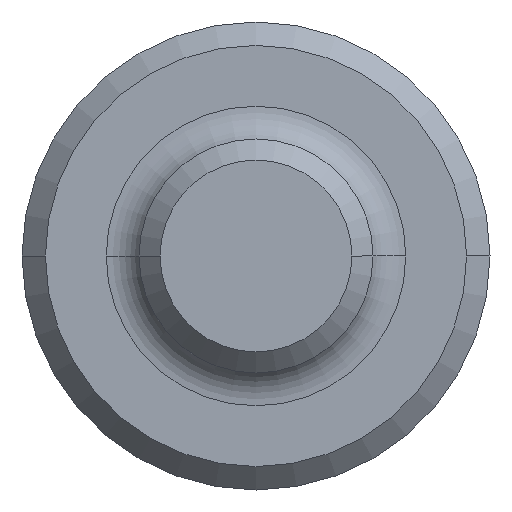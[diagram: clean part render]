
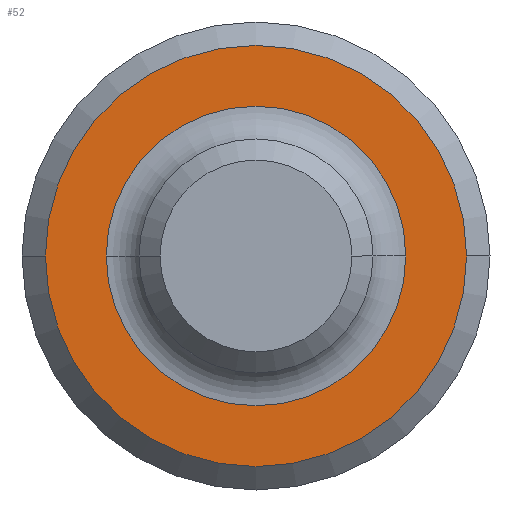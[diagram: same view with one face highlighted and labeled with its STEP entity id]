
A CAD part, left-side view. The second image highlights one B-rep face of the part: STEP entity #52.
In plain terms, the highlighted planar face has unit normal (-1, 0, 0).
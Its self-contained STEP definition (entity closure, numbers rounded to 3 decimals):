
#25 = EDGE_LOOP ( 'NONE', ( #557, #528 ) ) ;
#39 = DIRECTION ( 'NONE',  ( 1., 0., 0. ) ) ;
#52 = ADVANCED_FACE ( 'NONE', ( #332, #310 ), #301, .F. ) ;
#58 = AXIS2_PLACEMENT_3D ( 'NONE', #97, #561, #405 ) ;
#85 = AXIS2_PLACEMENT_3D ( 'NONE', #389, #206, #422 ) ;
#88 = CARTESIAN_POINT ( 'NONE',  ( 2.997, -11.43, 0. ) ) ;
#97 = CARTESIAN_POINT ( 'NONE',  ( 2.997, 0., 0. ) ) ;
#104 = CARTESIAN_POINT ( 'NONE',  ( 2.997, 0., 0. ) ) ;
#111 = ORIENTED_EDGE ( 'NONE', *, *, #329, .T. ) ;
#114 = DIRECTION ( 'NONE',  ( 0., 1., 0. ) ) ;
#145 = EDGE_LOOP ( 'NONE', ( #111, #383 ) ) ;
#188 = CARTESIAN_POINT ( 'NONE',  ( 2.997, 0., 0. ) ) ;
#198 = CARTESIAN_POINT ( 'NONE',  ( 2.997, -8.128, 0. ) ) ;
#206 = DIRECTION ( 'NONE',  ( 1., 0., 0. ) ) ;
#232 = CIRCLE ( 'NONE', #584, 11.43 ) ;
#278 = EDGE_CURVE ( 'NONE', #361, #533, #232, .T. ) ;
#279 = CARTESIAN_POINT ( 'NONE',  ( 2.997, 11.43, 0. ) ) ;
#292 = AXIS2_PLACEMENT_3D ( 'NONE', #393, #370, #114 ) ;
#301 = PLANE ( 'NONE',  #292 ) ;
#310 = FACE_BOUND ( 'NONE', #145, .T. ) ;
#318 = CARTESIAN_POINT ( 'NONE',  ( 2.997, 8.128, 0. ) ) ;
#329 = EDGE_CURVE ( 'NONE', #455, #546, #391, .T. ) ;
#332 = FACE_OUTER_BOUND ( 'NONE', #25, .T. ) ;
#333 = CIRCLE ( 'NONE', #58, 11.43 ) ;
#361 = VERTEX_POINT ( 'NONE', #279 ) ;
#364 = DIRECTION ( 'NONE',  ( 1., 0., 0. ) ) ;
#370 = DIRECTION ( 'NONE',  ( 1., 0., 0. ) ) ;
#377 = DIRECTION ( 'NONE',  ( 0., 1., 0. ) ) ;
#383 = ORIENTED_EDGE ( 'NONE', *, *, #448, .T. ) ;
#389 = CARTESIAN_POINT ( 'NONE',  ( 2.997, 0., 0. ) ) ;
#391 = CIRCLE ( 'NONE', #420, 8.128 ) ;
#393 = CARTESIAN_POINT ( 'NONE',  ( 2.997, 0., 0. ) ) ;
#405 = DIRECTION ( 'NONE',  ( 0., 1., 0. ) ) ;
#420 = AXIS2_PLACEMENT_3D ( 'NONE', #104, #39, #377 ) ;
#422 = DIRECTION ( 'NONE',  ( 0., 1., 0. ) ) ;
#431 = DIRECTION ( 'NONE',  ( 0., 1., 0. ) ) ;
#448 = EDGE_CURVE ( 'NONE', #546, #455, #577, .T. ) ;
#455 = VERTEX_POINT ( 'NONE', #318 ) ;
#528 = ORIENTED_EDGE ( 'NONE', *, *, #553, .F. ) ;
#533 = VERTEX_POINT ( 'NONE', #88 ) ;
#546 = VERTEX_POINT ( 'NONE', #198 ) ;
#553 = EDGE_CURVE ( 'NONE', #533, #361, #333, .T. ) ;
#557 = ORIENTED_EDGE ( 'NONE', *, *, #278, .F. ) ;
#561 = DIRECTION ( 'NONE',  ( 1., 0., 0. ) ) ;
#577 = CIRCLE ( 'NONE', #85, 8.128 ) ;
#584 = AXIS2_PLACEMENT_3D ( 'NONE', #188, #364, #431 ) ;
